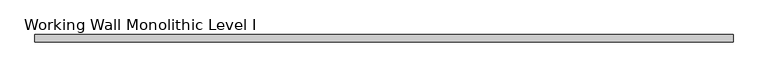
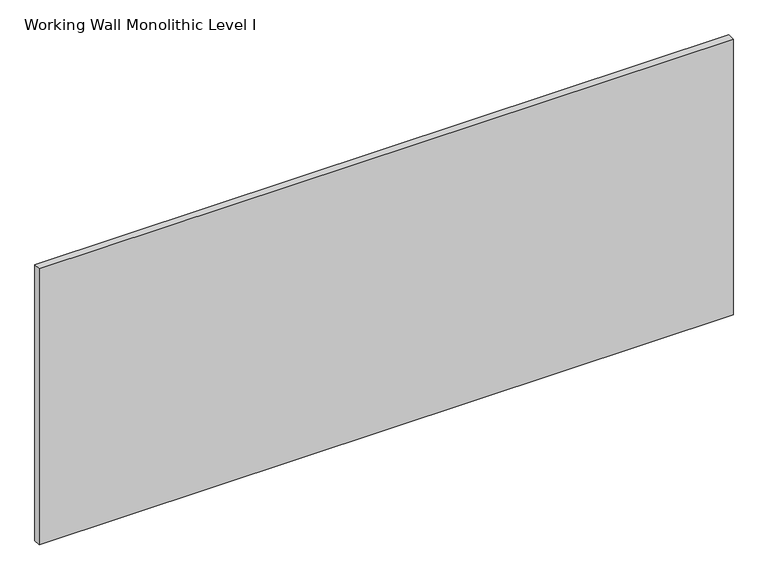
"""IFC4 building model written with IfcOpenShell, lengths in millimetres: proxy geometry, Panel-Fascia-Teknion-Altos-Standard : Working Wall Monolithic Level I."""

from ifc_helpers import new_model, si_unit, frame, origin, place, context, project, spatial, polyline, outline, extrude, source, transform, mapped, element, save


def working_wall_monolithic_level_i_2cfe2bff(model_context):
    return source(origin(), model_context, "Body", "SweptSolid", [
        extrude(outline(polyline([(904.2300781, 9.525), (904.2300781, -9.525), (-904.2300781, -9.525), (-904.2300781, 9.525), (904.2300781, 9.525)])), frame((0.0, 0.0, 3.175), z_axis=(0.0, 0.0, 1.0), x_axis=(1.0, 0.0, 0.0)), (0.0, 0.0, 1.0), 759.968),
    ])


if __name__ == "__main__":
    model = new_model("IFC4")
    model_context = context("Model", 3, world=origin())
    ifc_project = project(units=[si_unit("LENGTHUNIT", "METRE", prefix="MILLI")], contexts=[model_context])
    site = spatial("IfcSite", under=ifc_project)
    building = spatial("IfcBuilding", under=site)
    placement = place(None, origin())
    working_wall_monolithic_level_i_shape = working_wall_monolithic_level_i_2cfe2bff(model_context)
    element("IfcBuildingElementProxy", 1, Name="Panel-Fascia-Teknion-Altos-Standard : Working Wall Monolithic Level I", ObjectType="Panel-Fascia-Teknion-Altos-Standard : Working Wall Monolithic Level I", at=placement, inside=building, context=model_context, shape_type="MappedRepresentation", body=[
        mapped(working_wall_monolithic_level_i_shape, transform((0.0, 0.0, 0.0), x_axis=(1.0, 0.0, 0.0), y_axis=(0.0, 1.0, 0.0), z_axis=(0.0, 0.0, 1.0))),
    ])
    save(model, "model.ifc")
